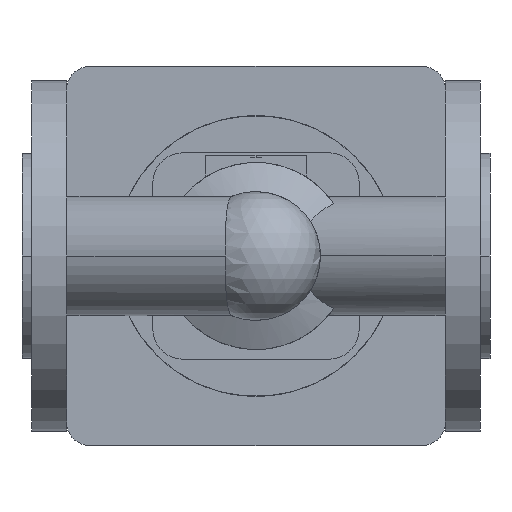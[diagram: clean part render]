
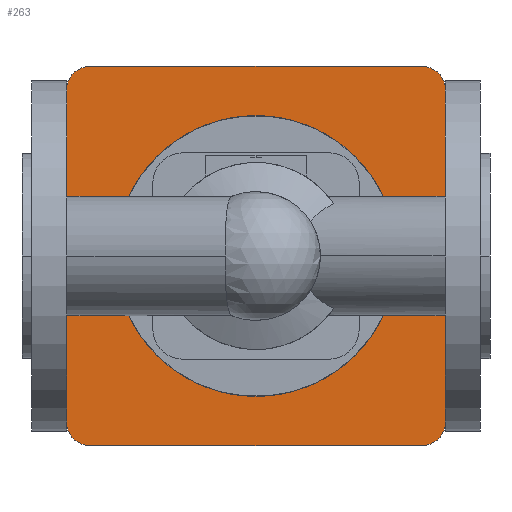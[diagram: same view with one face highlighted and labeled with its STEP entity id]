
A CAD part, front view. The second image highlights one B-rep face of the part: STEP entity #263.
In plain terms, the highlighted planar face has unit normal (0, -1, 0).
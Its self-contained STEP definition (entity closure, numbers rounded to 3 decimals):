
#263 = ADVANCED_FACE( '', ( #603, #604 ), #605, .F. );
#603 = FACE_OUTER_BOUND( '', #969, .T. );
#604 = FACE_BOUND( '', #970, .T. );
#605 = PLANE( '', #971 );
#969 = EDGE_LOOP( '', ( #2116, #2117, #2118, #2119, #2120, #2121, #2122, #2123 ) );
#970 = EDGE_LOOP( '', ( #2124, #2125 ) );
#971 = AXIS2_PLACEMENT_3D( '', #2126, #2127, #2128 );
#2116 = ORIENTED_EDGE( '', *, *, #2645, .F. );
#2117 = ORIENTED_EDGE( '', *, *, #2646, .F. );
#2118 = ORIENTED_EDGE( '', *, *, #2647, .F. );
#2119 = ORIENTED_EDGE( '', *, *, #2648, .F. );
#2120 = ORIENTED_EDGE( '', *, *, #2649, .F. );
#2121 = ORIENTED_EDGE( '', *, *, #2650, .F. );
#2122 = ORIENTED_EDGE( '', *, *, #2651, .F. );
#2123 = ORIENTED_EDGE( '', *, *, #2652, .F. );
#2124 = ORIENTED_EDGE( '', *, *, #2560, .F. );
#2125 = ORIENTED_EDGE( '', *, *, #2653, .F. );
#2126 = CARTESIAN_POINT( '', ( 100., 395., 0. ) );
#2127 = DIRECTION( '', ( 0., 1., 0. ) );
#2128 = DIRECTION( '', ( 0., 0., 1. ) );
#2560 = EDGE_CURVE( '', #3135, #3138, #3139, .T. );
#2645 = EDGE_CURVE( '', #3282, #3283, #3284, .T. );
#2646 = EDGE_CURVE( '', #3285, #3282, #3286, .T. );
#2647 = EDGE_CURVE( '', #3287, #3285, #3288, .T. );
#2648 = EDGE_CURVE( '', #3289, #3287, #3290, .T. );
#2649 = EDGE_CURVE( '', #3291, #3289, #3292, .T. );
#2650 = EDGE_CURVE( '', #3293, #3291, #3294, .T. );
#2651 = EDGE_CURVE( '', #3295, #3293, #3296, .T. );
#2652 = EDGE_CURVE( '', #3283, #3295, #3297, .T. );
#2653 = EDGE_CURVE( '', #3138, #3135, #3298, .T. );
#3135 = VERTEX_POINT( '', #4404 );
#3138 = VERTEX_POINT( '', #4408 );
#3139 = CIRCLE( '', #4409, 40. );
#3282 = VERTEX_POINT( '', #4607 );
#3283 = VERTEX_POINT( '', #4608 );
#3284 = CIRCLE( '', #4609, 10. );
#3285 = VERTEX_POINT( '', #4610 );
#3286 = LINE( '', #4611, #4612 );
#3287 = VERTEX_POINT( '', #4613 );
#3288 = CIRCLE( '', #4614, 10. );
#3289 = VERTEX_POINT( '', #4615 );
#3290 = LINE( '', #4616, #4617 );
#3291 = VERTEX_POINT( '', #4618 );
#3292 = CIRCLE( '', #4619, 10. );
#3293 = VERTEX_POINT( '', #4620 );
#3294 = LINE( '', #4621, #4622 );
#3295 = VERTEX_POINT( '', #4623 );
#3296 = CIRCLE( '', #4624, 10. );
#3297 = LINE( '', #4625, #4626 );
#3298 = CIRCLE( '', #4627, 40. );
#4404 = CARTESIAN_POINT( '', ( 60., 395., 0. ) );
#4408 = CARTESIAN_POINT( '', ( 140., 395., 0. ) );
#4409 = AXIS2_PLACEMENT_3D( '', #5182, #5183, #5184 );
#4607 = CARTESIAN_POINT( '', ( 19., 395., 71. ) );
#4608 = CARTESIAN_POINT( '', ( 29., 395., 81. ) );
#4609 = AXIS2_PLACEMENT_3D( '', #5327, #5328, #5329 );
#4610 = CARTESIAN_POINT( '', ( 19., 395., -71. ) );
#4611 = CARTESIAN_POINT( '', ( 19., 395., -71. ) );
#4612 = VECTOR( '', #5330, 1. );
#4613 = CARTESIAN_POINT( '', ( 29., 395., -81. ) );
#4614 = AXIS2_PLACEMENT_3D( '', #5331, #5332, #5333 );
#4615 = CARTESIAN_POINT( '', ( 171., 395., -81. ) );
#4616 = CARTESIAN_POINT( '', ( 171., 395., -81. ) );
#4617 = VECTOR( '', #5334, 1. );
#4618 = CARTESIAN_POINT( '', ( 181., 395., -71. ) );
#4619 = AXIS2_PLACEMENT_3D( '', #5335, #5336, #5337 );
#4620 = CARTESIAN_POINT( '', ( 181., 395., 71. ) );
#4621 = CARTESIAN_POINT( '', ( 181., 395., 71. ) );
#4622 = VECTOR( '', #5338, 1. );
#4623 = CARTESIAN_POINT( '', ( 171., 395., 81. ) );
#4624 = AXIS2_PLACEMENT_3D( '', #5339, #5340, #5341 );
#4625 = CARTESIAN_POINT( '', ( 29., 395., 81. ) );
#4626 = VECTOR( '', #5342, 1. );
#4627 = AXIS2_PLACEMENT_3D( '', #5343, #5344, #5345 );
#5182 = CARTESIAN_POINT( '', ( 100., 395., 0. ) );
#5183 = DIRECTION( '', ( 0., -1., 0. ) );
#5184 = DIRECTION( '', ( -1., 0., 0. ) );
#5327 = CARTESIAN_POINT( '', ( 29., 395., 71. ) );
#5328 = DIRECTION( '', ( 0., 1., 0. ) );
#5329 = DIRECTION( '', ( -1., 0., 0. ) );
#5330 = DIRECTION( '', ( 0., 0., 1. ) );
#5331 = CARTESIAN_POINT( '', ( 29., 395., -71. ) );
#5332 = DIRECTION( '', ( 0., 1., 0. ) );
#5333 = DIRECTION( '', ( 0., 0., -1. ) );
#5334 = DIRECTION( '', ( -1., 0., 0. ) );
#5335 = CARTESIAN_POINT( '', ( 171., 395., -71. ) );
#5336 = DIRECTION( '', ( 0., 1., 0. ) );
#5337 = DIRECTION( '', ( 1., 0., 0. ) );
#5338 = DIRECTION( '', ( 0., 0., -1. ) );
#5339 = CARTESIAN_POINT( '', ( 171., 395., 71. ) );
#5340 = DIRECTION( '', ( 0., 1., 0. ) );
#5341 = DIRECTION( '', ( 0., 0., 1. ) );
#5342 = DIRECTION( '', ( 1., 0., 0. ) );
#5343 = CARTESIAN_POINT( '', ( 100., 395., 0. ) );
#5344 = DIRECTION( '', ( 0., -1., 0. ) );
#5345 = DIRECTION( '', ( -1., 0., 0. ) );
